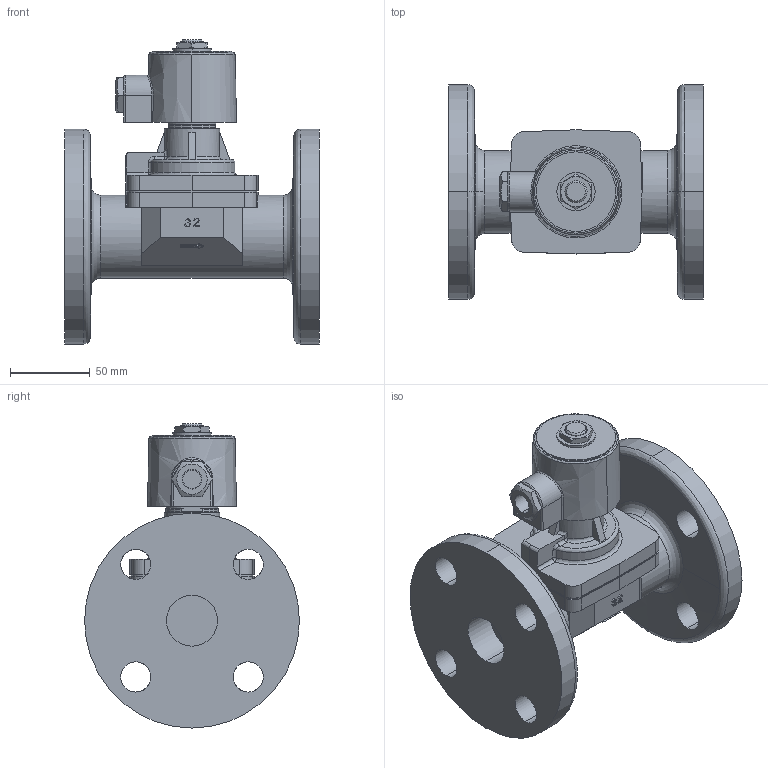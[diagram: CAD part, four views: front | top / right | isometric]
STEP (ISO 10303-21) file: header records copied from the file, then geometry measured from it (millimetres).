
FILE_DESCRIPTION( (''), '2;1');
FILE_NAME ('PC1056.13084.DP-200F(32A)_5922.stp','2024-07-19T14:18:15',(''),(''),'spGate 19.8.4 (****-****-****-****)','','');
FILE_SCHEMA (('AUTOMOTIVE_DESIGN'));
Length unit declared in the file: millimetre
Products named in the file (5): Assembly; パイプP32_50A; ACコイル10A; コイル六角ナット座金; DP-200(F32A)本体
Assembly tree (4 placements, depth 2):
  Assembly
    パイプP32_50A
    ACコイル10A
    コイル六角ナット座金
    DP-200(F32A)本体
Bounding box: 160 x 135 x 191.1 mm (x, y, z)
Volume: 939139.8 mm3; surface area: 147670.6 mm2
Topology: 4 solids, 4 shells, 406 faces, 1006 edges, 629 vertices
Faces by surface type: plane 155, cylinder 126, bspline 121, sphere 4
Entity records: 24548 total; most frequent: CARTESIAN_POINT 7672, ORIENTED_EDGE 2004, DIRECTION 1601, COLOUR_RGB 1412, PRESENTATION_STYLE_ASSIGNMENT 1412, STYLED_ITEM 1412, EDGE_CURVE 1002, DRAUGHTING_PRE_DEFINED_CURVE_FONT 1002
